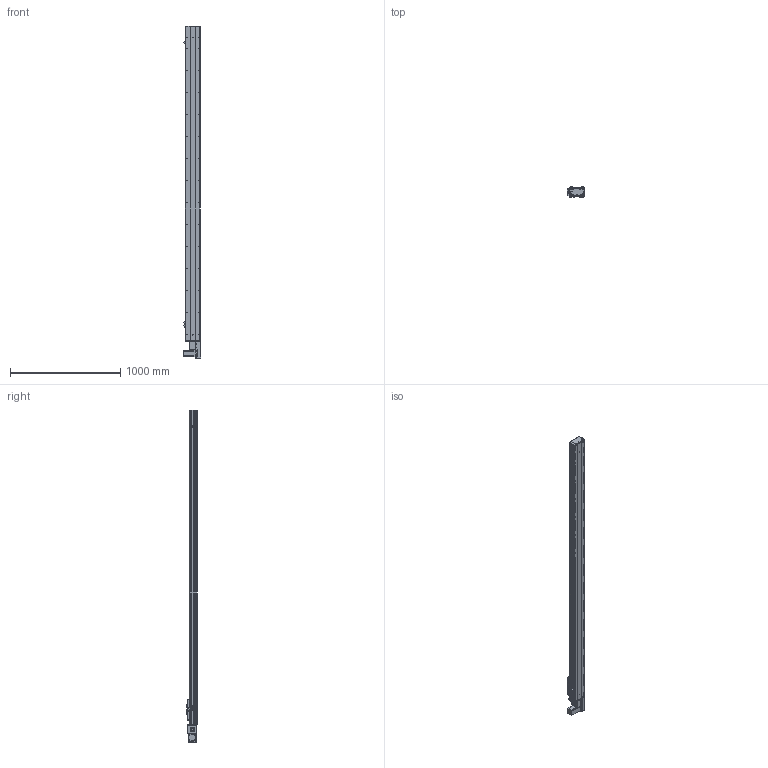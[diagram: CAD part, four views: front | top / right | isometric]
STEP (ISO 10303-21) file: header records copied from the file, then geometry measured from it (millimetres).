
FILE_DESCRIPTION (( 'STEP AP203' ), '1' );
FILE_NAME ('Y135CB-D90-S2550-BL-P400W.STEP', '2020-02-18T01:40:50', ( '微软用户' ), ( '微软中国' ), 'SwSTEP 2.0', 'SolidWorks 2017', '' );
FILE_SCHEMA (( 'CONFIG_CONTROL_DESIGN' ));
Length unit declared in the file: millimetre
Products named in the file (18): Y俋欶BR----; 0B-埴倛裔啣; 135CB--詩湍-CE; 0B-源倛裔啣; Y100-135俋离換覜ん--; 0B-萇儂楊擘啣; Y135CB-耜裔; Y135C-陔俋离換覜結え-; san松下电机400不带刹车----; 135CB---遴掛极.-; 5C--俋欶; 5CB --掛极耜裔啣-; 35CB---喘謫眊楊擘啣; C-雄赽釱--; C-詩湍揤踡え-陔; Y10B--々湍喘謫眊--666; Y135CB-D90-S2550-BL-P400W; Y10B-耜蚾蟀諉啣----
Assembly tree (21 placements, depth 2):
  Y135CB-D90-S2550-BL-P400W
    Y135CB-耜裔
    135CB---遴掛极.-
    35CB---喘謫眊楊擘啣
    Y10B--々湍喘謫眊--666
    Y10B-耜蚾蟀諉啣----
    Y俋欶BR----
    0B-埴倛裔啣
    0B-源倛裔啣
    0B-萇儂楊擘啣
    san松下电机400不带刹车----
    5CB --掛极耜裔啣-  x2
    C-詩湍揤踡え-陔  x2
    135CB--詩湍-CE
    Y100-135俋离換覜ん--  x3
    Y135C-陔俋离換覜結え-
    5C--俋欶
    C-雄赽釱--
Bounding box: 157.5 x 91 x 3014.5 mm (x, y, z)
Volume: 8412457.8 mm3; surface area: 3333260.9 mm2
Topology: 21 solids, 21 shells, 977 faces, 2671 edges, 1770 vertices
Faces by surface type: cylinder 503, plane 458, cone 16
Entity records: 30957 total; most frequent: CARTESIAN_POINT 5164, DIRECTION 5143, ORIENTED_EDGE 4818, EDGE_CURVE 2409, AXIS2_PLACEMENT_3D 1885, VERTEX_POINT 1598, LINE 1373, VECTOR 1373
